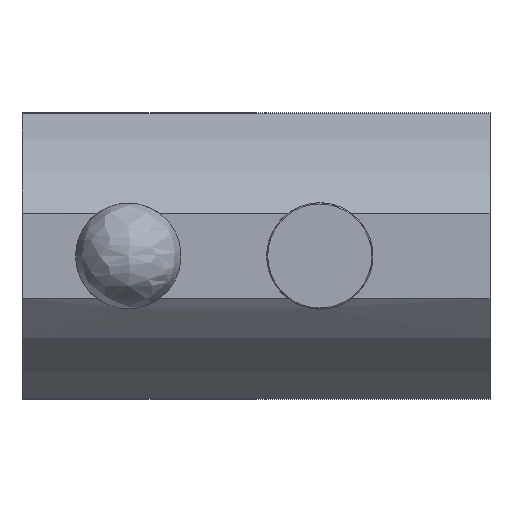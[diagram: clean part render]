
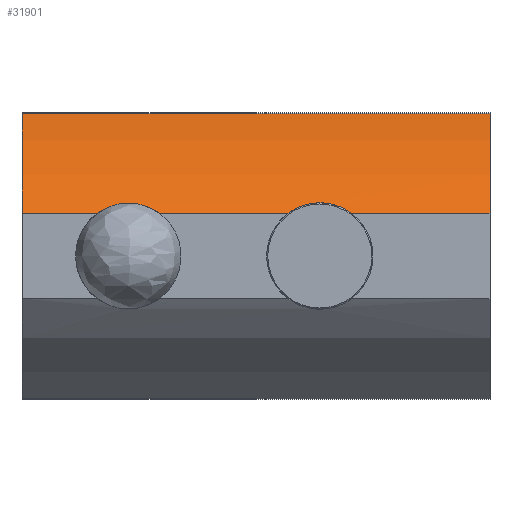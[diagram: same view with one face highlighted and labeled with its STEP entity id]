
A CAD part, front view. The second image highlights one B-rep face of the part: STEP entity #31901.
In plain terms, the highlighted cylindrical face has radius 15 mm (diameter 30 mm), a partial arc.
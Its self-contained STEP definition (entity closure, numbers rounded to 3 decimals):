
#366 = CARTESIAN_POINT ( 'NONE',  ( 2.29, -6.982, 17.996 ) ) ;
#545 = EDGE_CURVE ( 'NONE', #11088, #51891, #52139, .T. ) ;
#699 = CARTESIAN_POINT ( 'NONE',  ( 2., -7.2, 0. ) ) ;
#1207 = CARTESIAN_POINT ( 'NONE',  ( -6.879, 4.89, 0. ) ) ;
#3125 = CARTESIAN_POINT ( 'NONE',  ( 2.49, -6.824, 17.244 ) ) ;
#3560 = CARTESIAN_POINT ( 'NONE',  ( 2.444, -6.861, 8.545 ) ) ;
#3992 = CARTESIAN_POINT ( 'NONE',  ( -6.879, 4.89, 0. ) ) ;
#4952 = ORIENTED_EDGE ( 'NONE', *, *, #42118, .F. ) ;
#4975 = CARTESIAN_POINT ( 'NONE',  ( 2.442, -6.862, 7.449 ) ) ;
#7192 = VECTOR ( 'NONE', #82850, 1000. ) ;
#7426 = CARTESIAN_POINT ( 'NONE',  ( 2., -7.2, 9.5 ) ) ;
#8073 = CARTESIAN_POINT ( 'NONE',  ( 2.375, -6.916, 17.715 ) ) ;
#8305 = DIRECTION ( 'NONE',  ( 0., 0., 1. ) ) ;
#8502 = AXIS2_PLACEMENT_3D ( 'NONE', #34823, #65140, #49279 ) ;
#10402 = VERTEX_POINT ( 'NONE', #35284 ) ;
#10886 = VECTOR ( 'NONE', #8305, 1000. ) ;
#11088 = VERTEX_POINT ( 'NONE', #59309 ) ;
#11738 = CARTESIAN_POINT ( 'NONE',  ( 2.488, -6.826, 7.719 ) ) ;
#12558 = ORIENTED_EDGE ( 'NONE', *, *, #78965, .T. ) ;
#13125 = VECTOR ( 'NONE', #13542, 1000. ) ;
#13542 = DIRECTION ( 'NONE',  ( 0., 0., 1. ) ) ;
#15193 = CYLINDRICAL_SURFACE ( 'NONE', #82519, 15. ) ;
#17177 = VERTEX_POINT ( 'NONE', #73864 ) ;
#17463 = CARTESIAN_POINT ( 'NONE',  ( 6.686, -1.513, 22. ) ) ;
#17584 = CARTESIAN_POINT ( 'NONE',  ( 2.48, -6.832, 16.755 ) ) ;
#18385 = CARTESIAN_POINT ( 'NONE',  ( 2., -7.2, 15.534 ) ) ;
#18976 = CARTESIAN_POINT ( 'NONE',  ( 2., -7.2, 6.5 ) ) ;
#19005 = CARTESIAN_POINT ( 'NONE',  ( 2.451, -6.856, 17.488 ) ) ;
#19448 = CARTESIAN_POINT ( 'NONE',  ( 2.279, -6.99, 9.061 ) ) ;
#19938 = VERTEX_POINT ( 'NONE', #28592 ) ;
#20053 = ORIENTED_EDGE ( 'NONE', *, *, #93579, .F. ) ;
#21224 = CIRCLE ( 'NONE', #39672, 15. ) ;
#21882 = EDGE_CURVE ( 'NONE', #86127, #49406, #57624, .T. ) ;
#23230 = CARTESIAN_POINT ( 'NONE',  ( 2.163, -7.08, 15.756 ) ) ;
#26679 = EDGE_LOOP ( 'NONE', ( #4952, #69892, #12558, #58450, #77015, #20053, #75363, #85481, #83646, #64815 ) ) ;
#26698 = CARTESIAN_POINT ( 'NONE',  ( 2.441, -6.863, 16.515 ) ) ;
#27163 = EDGE_CURVE ( 'NONE', #17177, #37620, #52672, .T. ) ;
#28592 = CARTESIAN_POINT ( 'NONE',  ( 2., -7.2, 0. ) ) ;
#28811 = CARTESIAN_POINT ( 'NONE',  ( 2., -7.2, 18.466 ) ) ;
#30092 = DIRECTION ( 'NONE',  ( 0., 0., 1. ) ) ;
#31901 = ADVANCED_FACE ( 'NONE', ( #83428 ), #15193, .T. ) ;
#33316 = DIRECTION ( 'NONE',  ( -1., 0., 0. ) ) ;
#33384 = DIRECTION ( 'NONE',  ( 0., 0., 1. ) ) ;
#33893 = CARTESIAN_POINT ( 'NONE',  ( 2.41, -6.888, 8.68 ) ) ;
#33972 = EDGE_CURVE ( 'NONE', #19938, #83191, #38545, .T. ) ;
#34823 = CARTESIAN_POINT ( 'NONE',  ( -6.879, 4.89, 22. ) ) ;
#35284 = CARTESIAN_POINT ( 'NONE',  ( 2., -7.2, 22. ) ) ;
#37620 = VERTEX_POINT ( 'NONE', #69207 ) ;
#37677 = CARTESIAN_POINT ( 'NONE',  ( 2.375, -6.916, 16.285 ) ) ;
#38545 = LINE ( 'NONE', #90050, #7192 ) ;
#38767 = LINE ( 'NONE', #699, #49018 ) ;
#39672 = AXIS2_PLACEMENT_3D ( 'NONE', #3992, #33384, #41090 ) ;
#39710 = CARTESIAN_POINT ( 'NONE',  ( 2.278, -6.992, 6.935 ) ) ;
#41090 = DIRECTION ( 'NONE',  ( -1., 0., 0. ) ) ;
#41127 = CARTESIAN_POINT ( 'NONE',  ( 2.5, -6.816, 7.858 ) ) ;
#42118 = EDGE_CURVE ( 'NONE', #83191, #84304, #92839, .T. ) ;
#42920 = CARTESIAN_POINT ( 'NONE',  ( 2., -7.2, 0. ) ) ;
#47424 = CARTESIAN_POINT ( 'NONE',  ( 2.375, -6.916, 16.285 ) ) ;
#48639 = EDGE_CURVE ( 'NONE', #17177, #49406, #73025, .T. ) ;
#48817 = CARTESIAN_POINT ( 'NONE',  ( 2.154, -7.087, 9.295 ) ) ;
#49018 = VECTOR ( 'NONE', #30092, 1000. ) ;
#49279 = DIRECTION ( 'NONE',  ( -1., 0., 0. ) ) ;
#49406 = VERTEX_POINT ( 'NONE', #49784 ) ;
#49784 = CARTESIAN_POINT ( 'NONE',  ( 2.375, -6.916, 17.715 ) ) ;
#51891 = VERTEX_POINT ( 'NONE', #17463 ) ;
#52139 = LINE ( 'NONE', #74287, #10886 ) ;
#52672 = B_SPLINE_CURVE_WITH_KNOTS ( 'NONE', 3,
 ( #37677, #89200, #23230, #18385 ),
 .UNSPECIFIED., .F., .F.,
 ( 4, 4 ),
 ( 0., 0.001 ),
 .UNSPECIFIED. ) ;
#55602 = CARTESIAN_POINT ( 'NONE',  ( 2.49, -6.824, 16.878 ) ) ;
#56042 = CARTESIAN_POINT ( 'NONE',  ( 2.409, -6.889, 7.318 ) ) ;
#57624 = B_SPLINE_CURVE_WITH_KNOTS ( 'NONE', 3,
 ( #28811, #74056, #366, #8073 ),
 .UNSPECIFIED., .F., .F.,
 ( 4, 4 ),
 ( 0., 0.001 ),
 .UNSPECIFIED. ) ;
#58450 = ORIENTED_EDGE ( 'NONE', *, *, #545, .T. ) ;
#59309 = CARTESIAN_POINT ( 'NONE',  ( 6.686, -1.513, 0. ) ) ;
#62318 = CARTESIAN_POINT ( 'NONE',  ( 2.489, -6.825, 8.274 ) ) ;
#62407 = CARTESIAN_POINT ( 'NONE',  ( 2., -7.2, 6.5 ) ) ;
#64815 = ORIENTED_EDGE ( 'NONE', *, *, #74111, .F. ) ;
#65140 = DIRECTION ( 'NONE',  ( 0., 0., 1. ) ) ;
#67531 = CARTESIAN_POINT ( 'NONE',  ( 2., -7.2, 18.466 ) ) ;
#69207 = CARTESIAN_POINT ( 'NONE',  ( 2., -7.2, 15.534 ) ) ;
#69554 = CARTESIAN_POINT ( 'NONE',  ( 2.5, -6.816, 8.137 ) ) ;
#69892 = ORIENTED_EDGE ( 'NONE', *, *, #33972, .F. ) ;
#73025 = B_SPLINE_CURVE_WITH_KNOTS ( 'NONE', 3,
 ( #47424, #92197, #26698, #17584, #55602, #3125, #19005, #76803 ),
 .UNSPECIFIED., .F., .F.,
 ( 4, 2, 2, 4 ),
 ( 0., 0., 0.001, 0.001 ),
 .UNSPECIFIED. ) ;
#73864 = CARTESIAN_POINT ( 'NONE',  ( 2.375, -6.916, 16.285 ) ) ;
#74056 = CARTESIAN_POINT ( 'NONE',  ( 2.163, -7.08, 18.244 ) ) ;
#74111 = EDGE_CURVE ( 'NONE', #84304, #37620, #38767, .T. ) ;
#74287 = CARTESIAN_POINT ( 'NONE',  ( 6.686, -1.513, 0. ) ) ;
#74652 = CIRCLE ( 'NONE', #8502, 15. ) ;
#75363 = ORIENTED_EDGE ( 'NONE', *, *, #21882, .T. ) ;
#76772 = CARTESIAN_POINT ( 'NONE',  ( 2.153, -7.087, 6.705 ) ) ;
#76803 = CARTESIAN_POINT ( 'NONE',  ( 2.375, -6.916, 17.715 ) ) ;
#77015 = ORIENTED_EDGE ( 'NONE', *, *, #91911, .F. ) ;
#78965 = EDGE_CURVE ( 'NONE', #19938, #11088, #21224, .T. ) ;
#82519 = AXIS2_PLACEMENT_3D ( 'NONE', #1207, #91586, #33316 ) ;
#82850 = DIRECTION ( 'NONE',  ( 0., 0., 1. ) ) ;
#83191 = VERTEX_POINT ( 'NONE', #62407 ) ;
#83428 = FACE_OUTER_BOUND ( 'NONE', #26679, .T. ) ;
#83646 = ORIENTED_EDGE ( 'NONE', *, *, #27163, .T. ) ;
#84006 = CARTESIAN_POINT ( 'NONE',  ( 2., -7.2, 9.5 ) ) ;
#84304 = VERTEX_POINT ( 'NONE', #7426 ) ;
#85481 = ORIENTED_EDGE ( 'NONE', *, *, #48639, .F. ) ;
#85805 = LINE ( 'NONE', #42920, #13125 ) ;
#86127 = VERTEX_POINT ( 'NONE', #67531 ) ;
#89200 = CARTESIAN_POINT ( 'NONE',  ( 2.29, -6.982, 16.004 ) ) ;
#90050 = CARTESIAN_POINT ( 'NONE',  ( 2., -7.2, 0. ) ) ;
#91586 = DIRECTION ( 'NONE',  ( 0., 0., -1. ) ) ;
#91911 = EDGE_CURVE ( 'NONE', #10402, #51891, #74652, .T. ) ;
#92197 = CARTESIAN_POINT ( 'NONE',  ( 2.413, -6.886, 16.399 ) ) ;
#92839 = B_SPLINE_CURVE_WITH_KNOTS ( 'NONE', 3,
 ( #18976, #76772, #39710, #56042, #4975, #11738, #41127, #69554, #62318, #3560, #33893, #19448, #48817, #84006 ),
 .UNSPECIFIED., .F., .F.,
 ( 4, 2, 2, 2, 2, 2, 4 ),
 ( 0., 0.001, 0.001, 0.002, 0.002, 0.002, 0.003 ),
 .UNSPECIFIED. ) ;
#93579 = EDGE_CURVE ( 'NONE', #86127, #10402, #85805, .T. ) ;
